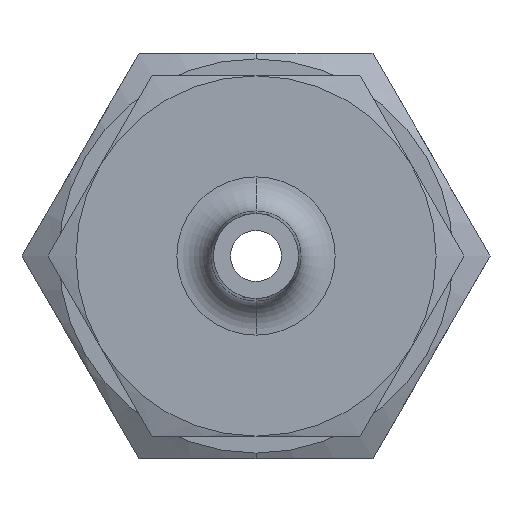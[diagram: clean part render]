
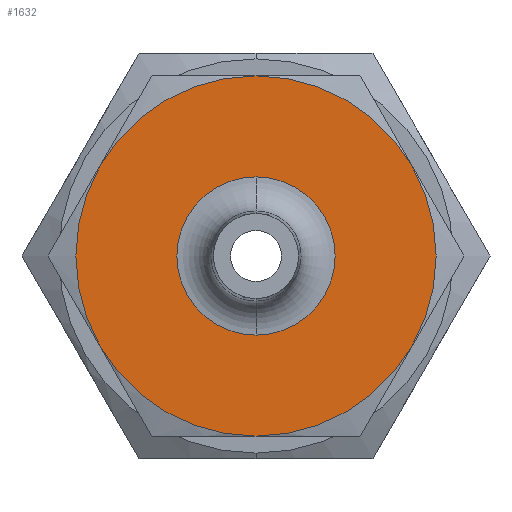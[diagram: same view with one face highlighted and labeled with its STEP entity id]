
A CAD part, left-side view. The second image highlights one B-rep face of the part: STEP entity #1632.
In plain terms, the highlighted planar face has unit normal (-1, 0, 0).
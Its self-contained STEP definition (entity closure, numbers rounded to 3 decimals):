
#84 = CARTESIAN_POINT ( 'NONE',  ( 0., -5.499, -3.175 ) ) ;
#269 = CARTESIAN_POINT ( 'NONE',  ( 0., 5.499, -3.175 ) ) ;
#401 = CARTESIAN_POINT ( 'NONE',  ( 0., -5.499, 3.175 ) ) ;
#508 = DIRECTION ( 'NONE',  ( 0., 0., -1. ) ) ;
#509 = DIRECTION ( 'NONE',  ( 1., 0., 0. ) ) ;
#510 = CARTESIAN_POINT ( 'NONE',  ( 0., 0., 0. ) ) ;
#511 = AXIS2_PLACEMENT_3D ( 'NONE', #510, #509, #508 ) ;
#512 = CIRCLE ( 'NONE', #511, 6.35 ) ;
#515 = DIRECTION ( 'NONE',  ( 0., 0., -1. ) ) ;
#516 = DIRECTION ( 'NONE',  ( 1., 0., 0. ) ) ;
#517 = CARTESIAN_POINT ( 'NONE',  ( 0., 0., 0. ) ) ;
#518 = AXIS2_PLACEMENT_3D ( 'NONE', #517, #516, #515 ) ;
#519 = CIRCLE ( 'NONE', #518, 6.35 ) ;
#574 = DIRECTION ( 'NONE',  ( 0., 0., -1. ) ) ;
#575 = DIRECTION ( 'NONE',  ( 1., 0., 0. ) ) ;
#576 = CARTESIAN_POINT ( 'NONE',  ( 0., 0., 0. ) ) ;
#577 = AXIS2_PLACEMENT_3D ( 'NONE', #576, #575, #574 ) ;
#578 = CIRCLE ( 'NONE', #577, 6.35 ) ;
#579 = DIRECTION ( 'NONE',  ( 0., 0., 1. ) ) ;
#580 = DIRECTION ( 'NONE',  ( -1., 0., 0. ) ) ;
#581 = CARTESIAN_POINT ( 'NONE',  ( 0., 0., 0. ) ) ;
#582 = AXIS2_PLACEMENT_3D ( 'NONE', #581, #580, #579 ) ;
#583 = CIRCLE ( 'NONE', #582, 6.35 ) ;
#584 = DIRECTION ( 'NONE',  ( 0., 0., -1. ) ) ;
#585 = DIRECTION ( 'NONE',  ( 1., 0., 0. ) ) ;
#586 = AXIS2_PLACEMENT_3D ( 'NONE', #592, #585, #584 ) ;
#587 = CIRCLE ( 'NONE', #586, 6.35 ) ;
#592 = CARTESIAN_POINT ( 'NONE',  ( 0., 0., 0. ) ) ;
#609 = CARTESIAN_POINT ( 'NONE',  ( 0., 0., -6.35 ) ) ;
#684 = CARTESIAN_POINT ( 'NONE',  ( 0., 0., 6.35 ) ) ;
#779 = CARTESIAN_POINT ( 'NONE',  ( 0., 5.499, 3.175 ) ) ;
#791 = PLANE ( 'NONE',  #974 ) ;
#792 = FACE_OUTER_BOUND ( 'NONE', #1475, .T. ) ;
#806 = FACE_BOUND ( 'NONE', #1633, .T. ) ;
#938 = DIRECTION ( 'NONE',  ( 0., 0., -1. ) ) ;
#939 = DIRECTION ( 'NONE',  ( 1., 0., 0. ) ) ;
#940 = CARTESIAN_POINT ( 'NONE',  ( 0., 0., 0. ) ) ;
#941 = AXIS2_PLACEMENT_3D ( 'NONE', #940, #939, #938 ) ;
#942 = CIRCLE ( 'NONE', #941, 6.35 ) ;
#965 = DIRECTION ( 'NONE',  ( 0., 0., -1. ) ) ;
#966 = DIRECTION ( 'NONE',  ( 1., 0., 0. ) ) ;
#967 = CARTESIAN_POINT ( 'NONE',  ( 0., 0., 0. ) ) ;
#968 = AXIS2_PLACEMENT_3D ( 'NONE', #967, #966, #965 ) ;
#969 = CIRCLE ( 'NONE', #968, 2.79 ) ;
#971 = DIRECTION ( 'NONE',  ( 0., 0., -1. ) ) ;
#972 = DIRECTION ( 'NONE',  ( 1., 0., 0. ) ) ;
#973 = CARTESIAN_POINT ( 'NONE',  ( 0., 7.332, 0. ) ) ;
#974 = AXIS2_PLACEMENT_3D ( 'NONE', #973, #972, #971 ) ;
#1251 = EDGE_CURVE ( 'NONE', #1252, #1253, #1660, .T. ) ;
#1252 = VERTEX_POINT ( 'NONE', #1655 ) ;
#1253 = VERTEX_POINT ( 'NONE', #1654 ) ;
#1312 = VERTEX_POINT ( 'NONE', #779 ) ;
#1329 = VERTEX_POINT ( 'NONE', #609 ) ;
#1341 = VERTEX_POINT ( 'NONE', #684 ) ;
#1368 = VERTEX_POINT ( 'NONE', #84 ) ;
#1475 = EDGE_LOOP ( 'NONE', ( #1612, #1614, #1616, #1581, #1583, #1585 ) ) ;
#1485 = VERTEX_POINT ( 'NONE', #269 ) ;
#1518 = VERTEX_POINT ( 'NONE', #401 ) ;
#1581 = ORIENTED_EDGE ( 'NONE', *, *, #1582, .F. ) ;
#1582 = EDGE_CURVE ( 'NONE', #1341, #1518, #587, .T. ) ;
#1583 = ORIENTED_EDGE ( 'NONE', *, *, #1584, .T. ) ;
#1584 = EDGE_CURVE ( 'NONE', #1341, #1312, #583, .T. ) ;
#1585 = ORIENTED_EDGE ( 'NONE', *, *, #1586, .F. ) ;
#1586 = EDGE_CURVE ( 'NONE', #1485, #1312, #578, .T. ) ;
#1612 = ORIENTED_EDGE ( 'NONE', *, *, #1613, .F. ) ;
#1613 = EDGE_CURVE ( 'NONE', #1329, #1485, #519, .T. ) ;
#1614 = ORIENTED_EDGE ( 'NONE', *, *, #1615, .F. ) ;
#1615 = EDGE_CURVE ( 'NONE', #1368, #1329, #512, .T. ) ;
#1616 = ORIENTED_EDGE ( 'NONE', *, *, #1617, .F. ) ;
#1617 = EDGE_CURVE ( 'NONE', #1518, #1368, #942, .T. ) ;
#1632 = ADVANCED_FACE ( 'NONE', ( #806, #792 ), #791, .F. ) ;
#1633 = EDGE_LOOP ( 'NONE', ( #1634, #1636 ) ) ;
#1634 = ORIENTED_EDGE ( 'NONE', *, *, #1635, .T. ) ;
#1635 = EDGE_CURVE ( 'NONE', #1253, #1252, #969, .T. ) ;
#1636 = ORIENTED_EDGE ( 'NONE', *, *, #1251, .T. ) ;
#1654 = CARTESIAN_POINT ( 'NONE',  ( 0., 0., -2.79 ) ) ;
#1655 = CARTESIAN_POINT ( 'NONE',  ( 0., 0., 2.79 ) ) ;
#1656 = DIRECTION ( 'NONE',  ( 0., 0., -1. ) ) ;
#1657 = DIRECTION ( 'NONE',  ( 1., 0., 0. ) ) ;
#1658 = CARTESIAN_POINT ( 'NONE',  ( 0., 0., 0. ) ) ;
#1659 = AXIS2_PLACEMENT_3D ( 'NONE', #1658, #1657, #1656 ) ;
#1660 = CIRCLE ( 'NONE', #1659, 2.79 ) ;
